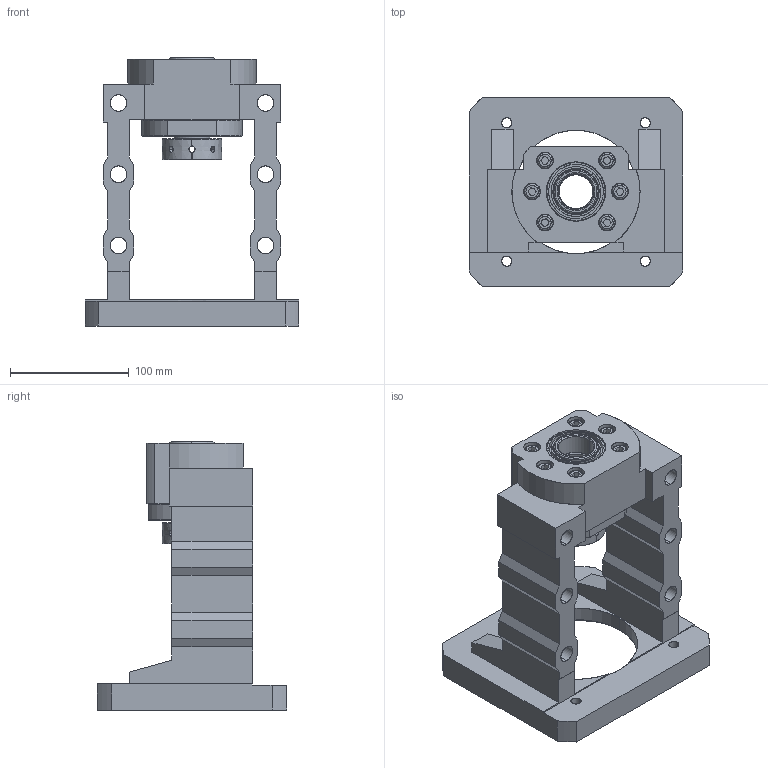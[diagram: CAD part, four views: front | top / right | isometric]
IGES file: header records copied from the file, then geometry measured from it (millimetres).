
Start section: SolidWorks IGES file using analytic representation for surfaces
Bounding box: 180 x 160 x 226 mm (x, y, z)
Surface area: 209754.2 mm2 (no closed solid volume)
Topology: 0 solids, 0 shells, 342 faces, 6016 edges, 6008 vertices
Faces by surface type: revolution 176, bspline 166
